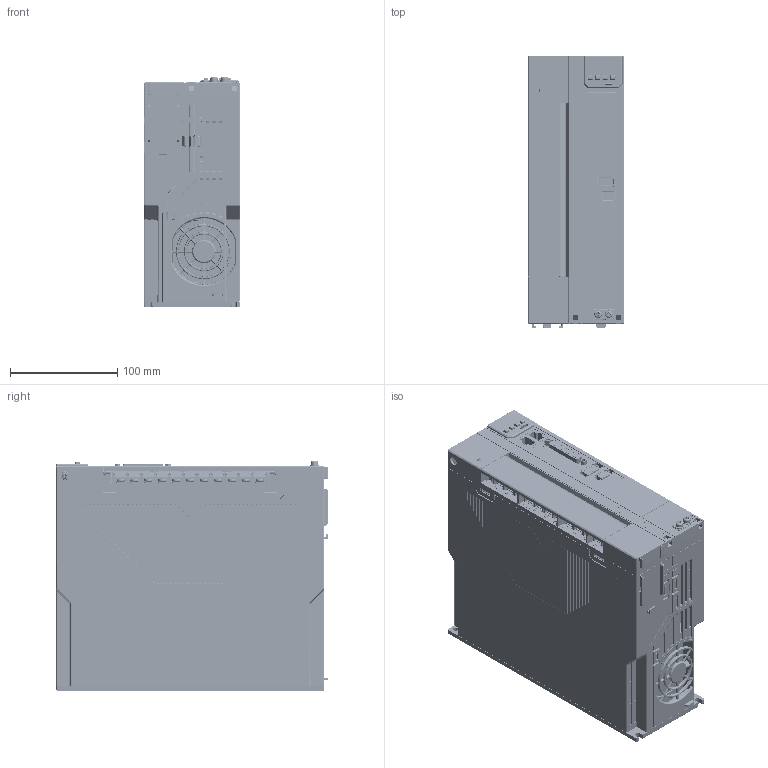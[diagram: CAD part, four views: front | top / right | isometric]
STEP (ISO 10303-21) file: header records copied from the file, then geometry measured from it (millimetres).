
FILE_DESCRIPTION((''),'2;1');
FILE_NAME('00-SD900-300D-PA_ASM','2025-09-17T',('v5489'),(''),'CREO PARAMETRIC BY PTC INC, 2018360','CREO PARAMETRIC BY PTC INC, 2018360','');
FILE_SCHEMA(('AP203_CONFIGURATION_CONTROLLED_3D_DESIGN_OF_MECHANICAL_PARTS_AND_ASSEMBLIES_MIM_LF { 1 0 10303 403 2 1 2 }'));
Products named in the file (1): 00-SD900-300D-PA_ASM
Bounding box: 90 x 253.5 x 215.09 mm (x, y, z)
Volume: 4114525.7 mm3; surface area: 396902.4 mm2
Topology: 3 solids, 31 shells, 10871 faces, 29717 edges, 19033 vertices
Faces by surface type: plane 6145, cylinder 2753, bspline 785, cone 470, extrusion 319, torus 285, sphere 114
Entity records: 481708 total; most frequent: CARTESIAN_POINT 158763, ORIENTED_EDGE 59036, DIRECTION 50126, EDGE_CURVE 29564, VECTOR 19764, LINE 19445, VERTEX_POINT 18956, AXIS2_PLACEMENT_3D 15181
